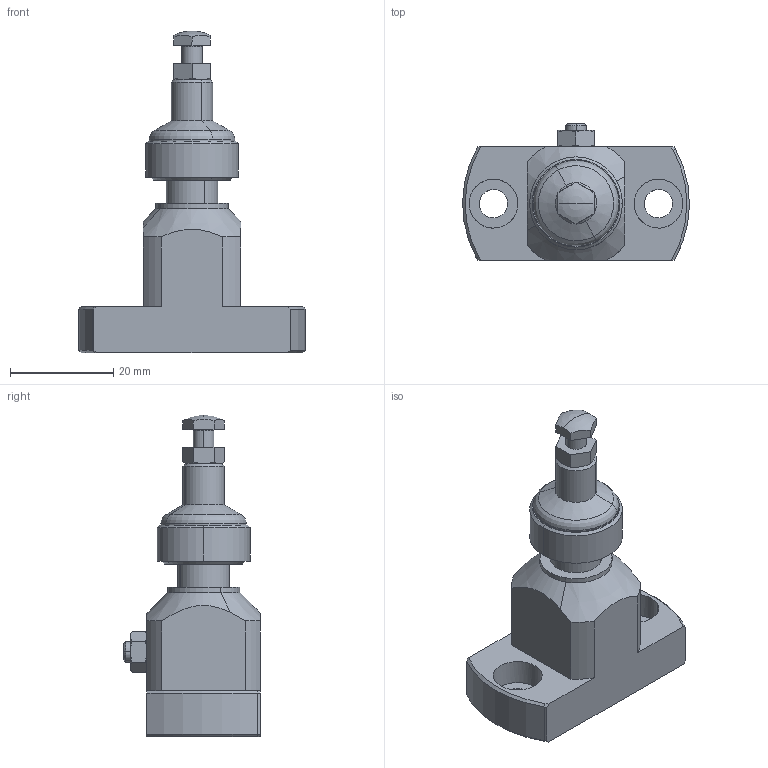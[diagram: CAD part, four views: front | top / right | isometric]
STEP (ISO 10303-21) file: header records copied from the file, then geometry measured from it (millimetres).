
FILE_DESCRIPTION(('CATIA V5 STEP Exchange'),'2;1');
FILE_NAME('\\kjf-102\KJF_TC\Hydraulic_Clamp\Special\2024\ASV-10_S2 (리테크)\ASV-10_S2.stp','2025-06-10T07:25:43+00:00',('none'),('none'),'CATIA Version 5 Release 19 SP 9 (IN-10)','CATIA V5 STEP AP214','none');
FILE_SCHEMA(('AUTOMOTIVE_DESIGN { 1 0 10303 214 1 1 1 1 }'));
Length unit declared in the file: millimetre
Products named in the file (11): ASV-10_S; HOUSING; PLUNGER; CAP; ASV-10_S_COVER; UR4-30; MSSG4_12; NUT M4; STBB4-10.catproduct; STBB4-10_b; 4x0.7CarbonSteel-STCA
Assembly tree (10 placements, depth 3):
  ASV-10_S
    HOUSING
    PLUNGER
    CAP
    ASV-10_S_COVER
    UR4-30
    MSSG4_12
    NUT M4
    STBB4-10.catproduct
      STBB4-10_b
      4x0.7CarbonSteel-STCA
Bounding box: 44 x 26.5 x 62.42 mm (x, y, z)
Volume: 17285 mm3; surface area: 10407.4 mm2
Topology: 9 solids, 9 shells, 221 faces, 533 edges, 330 vertices
Faces by surface type: cylinder 64, plane 63, cone 60, torus 32, sphere 2
Entity records: 7393 total; most frequent: CARTESIAN_POINT 2192, ORIENTED_EDGE 1050, DIRECTION 774, EDGE_CURVE 525, AXIS2_PLACEMENT_3D 430, VERTEX_POINT 330, EDGE_LOOP 247, CIRCLE 236
